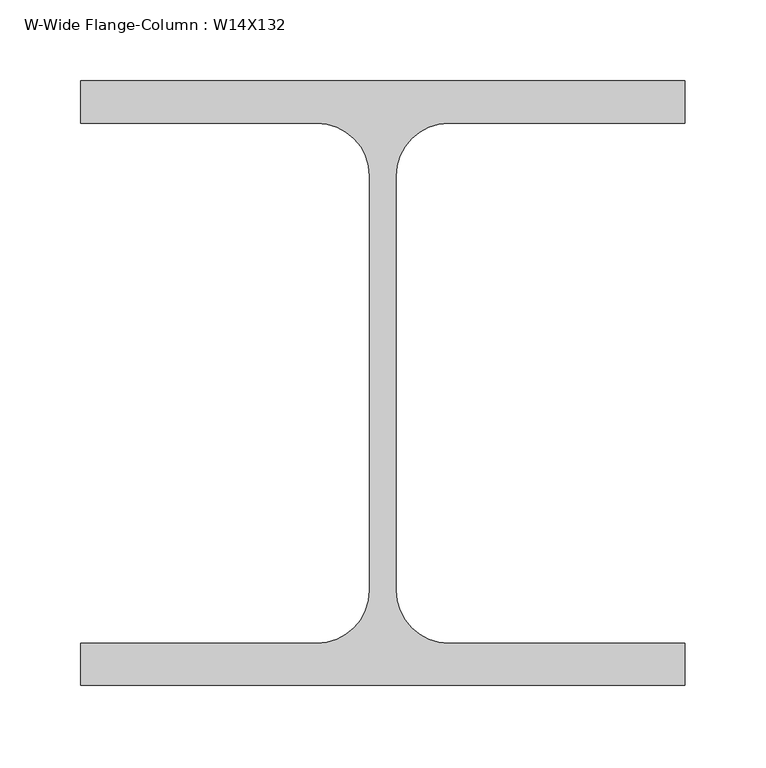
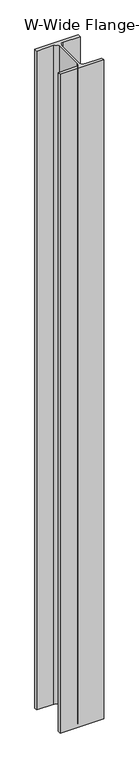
"""IFC4 building model written with IfcOpenShell, lengths in millimetres: column geometry, W-Wide Flange-Column : W14X132."""

from ifc_helpers import new_model, si_unit, point, frame_2d, origin, origin_with_axes, place, context, project, spatial, polyline, circle_curve, trimmed, segment, composite_curve, outline, extrude, source, transform, mapped, element, save


def w_wide_flange_column_w14x132_17457bbd(model_context):
    return source(origin(), model_context, "Body", "SweptSolid", [
        extrude(outline(composite_curve([segment(polyline([(186.69, 186.69), (186.69, 160.528), (40.767, 160.528)]), True, "CONTINUOUS"), segment(trimmed(circle_curve(frame_2d((40.767, 127.9525)), 32.5755), [point((40.767, 160.528))], [point((8.1915, 127.9525))], True, "CARTESIAN"), True, "CONTINUOUS"), segment(polyline([(8.1915, 127.9525), (8.1915, -127.9525)]), True, "CONTINUOUS"), segment(trimmed(circle_curve(frame_2d((40.767, -127.9525)), 32.5755), [point((8.1915, -127.9525))], [point((40.767, -160.528))], True, "CARTESIAN"), True, "CONTINUOUS"), segment(polyline([(40.767, -160.528), (186.69, -160.528), (186.69, -186.69), (-186.69, -186.69), (-186.69, -160.528), (-40.767, -160.528)]), True, "CONTINUOUS"), segment(trimmed(circle_curve(frame_2d((-40.767, -127.9525)), 32.5755), [point((-40.767, -160.528))], [point((-8.1915, -127.9525))], True, "CARTESIAN"), True, "CONTINUOUS"), segment(polyline([(-8.1915, -127.9525), (-8.1915, 127.9525)]), True, "CONTINUOUS"), segment(trimmed(circle_curve(frame_2d((-40.767, 127.9525)), 32.5755), [point((-8.1915, 127.9525))], [point((-40.767, 160.528))], True, "CARTESIAN"), True, "CONTINUOUS"), segment(polyline([(-40.767, 160.528), (-186.69, 160.528), (-186.69, 186.69), (186.69, 186.69)]), True, "CONTINUOUS")], self_intersect=False)), origin_with_axes(), (0.0, 0.0, 1.0), 5969.0),
    ])


if __name__ == "__main__":
    model = new_model("IFC4")
    model_context = context("Model", 3, world=origin())
    ifc_project = project(units=[si_unit("LENGTHUNIT", "METRE", prefix="MILLI")], contexts=[model_context])
    site = spatial("IfcSite", under=ifc_project)
    building = spatial("IfcBuilding", under=site)
    placement = place(None, origin())
    w_wide_flange_column_w14x132_shape = w_wide_flange_column_w14x132_17457bbd(model_context)
    element("IfcColumn", 1, ObjectType="W-Wide Flange-Column : W14X132", at=placement, inside=building, context=model_context, shape_type="MappedRepresentation", body=[
        mapped(w_wide_flange_column_w14x132_shape, transform((0.0, 0.0, 0.0), x_axis=(1.0, 0.0, 0.0), y_axis=(0.0, 1.0, 0.0), z_axis=(0.0, 0.0, 1.0))),
    ])
    save(model, "model.ifc")
